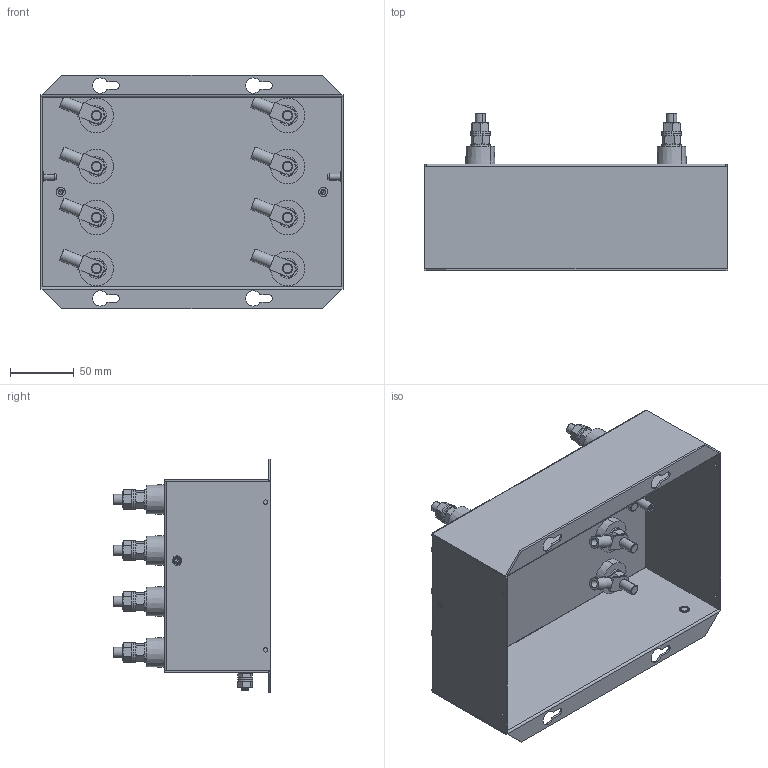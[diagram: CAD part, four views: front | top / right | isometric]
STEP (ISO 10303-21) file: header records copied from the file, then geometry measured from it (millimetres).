
FILE_DESCRIPTION (( 'STEP AP214' ), '1' );
FILE_NAME ('IHF470-4100.STEP', '2015-01-23T10:00:23', ( '' ), ( '' ), 'SwSTEP 2.0', 'SolidWorks 2014', '' );
FILE_SCHEMA (( 'AUTOMOTIVE_DESIGN' ));
Length unit declared in the file: millimetre
Products named in the file (15): SCR270_SCR191; PEM B-M4-2 ZI--S_PEM B-M4-2 ZI--S; PEM FH-M6-15 ZI--S_PEM FH-M6-15 ZI--S; PEM BSO-M4-22 ZI--S_PEM BSO-M4-22 ZI--S; BOX59; IHF470-4100; NUT61_NUT61; NUT60_NUT61; WSH130_WSH130; WSH128; TER708B; TER708A; TER11; WSH135; NUT81_NUT81
Assembly tree (99 placements, depth 2):
  IHF470-4100
    BOX59
    PEM BSO-M4-22 ZI--S_PEM BSO-M4-22 ZI--S  x2
    PEM FH-M6-15 ZI--S_PEM FH-M6-15 ZI--S
    PEM B-M4-2 ZI--S_PEM B-M4-2 ZI--S  x2
    SCR270_SCR191  x8
    NUT81_NUT81  x24
    WSH135  x32
    TER11  x8
    TER708A  x8
    TER708B  x8
    WSH128  x2
    WSH130_WSH130
    NUT60_NUT61
    NUT61_NUT61
Bounding box: 238 x 123.5 x 183 mm (x, y, z)
Volume: 290039.5 mm3; surface area: 310990.4 mm2
Topology: 99 solids, 99 shells, 2913 faces, 6281 edges, 3586 vertices
Faces by surface type: cone 1391, cylinder 864, plane 656, torus 2
Entity records: 24485 total; most frequent: CARTESIAN_POINT 4352, DIRECTION 4298, ORIENTED_EDGE 3690, EDGE_CURVE 1845, AXIS2_PLACEMENT_3D 1665, VERTEX_POINT 1103, VECTOR 968, LINE 968
